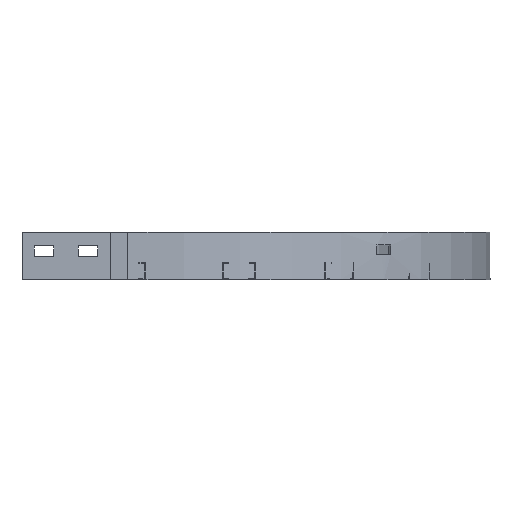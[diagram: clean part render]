
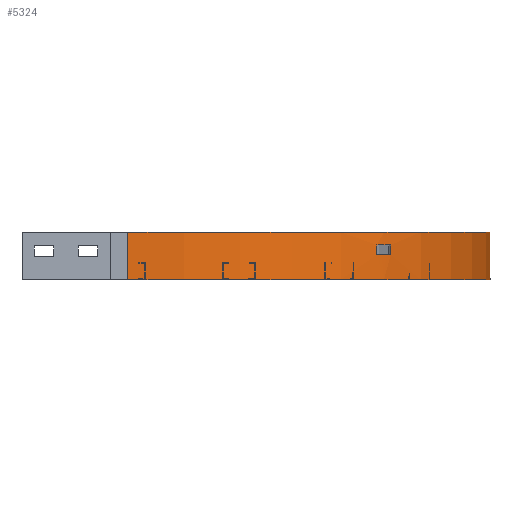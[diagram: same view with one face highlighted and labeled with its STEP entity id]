
A CAD part, front view. The second image highlights one B-rep face of the part: STEP entity #5324.
In plain terms, the highlighted cylindrical face has radius 411 mm (diameter 822 mm), a partial arc.
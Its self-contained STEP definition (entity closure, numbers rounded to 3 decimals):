
#143=FACE_BOUND('',#724,.T.);
#211=CYLINDRICAL_SURFACE('',#5639,411.);
#244=CIRCLE('',#5631,411.);
#249=CIRCLE('',#5638,411.);
#250=CIRCLE('',#5640,411.);
#251=CIRCLE('',#5641,411.);
#434=FACE_OUTER_BOUND('',#723,.T.);
#723=EDGE_LOOP('',(#3620,#3621,#3622,#3623));
#724=EDGE_LOOP('',(#3624,#3625,#3626,#3627));
#1079=LINE('',#7537,#1675);
#1085=LINE('',#7561,#1681);
#1086=LINE('',#7566,#1682);
#1087=LINE('',#7569,#1683);
#1675=VECTOR('',#6094,304.8);
#1681=VECTOR('',#6120,304.8);
#1682=VECTOR('',#6123,304.8);
#1683=VECTOR('',#6126,304.8);
#2268=VERTEX_POINT('',#7530);
#2271=VERTEX_POINT('',#7535);
#2272=VERTEX_POINT('',#7539);
#2279=VERTEX_POINT('',#7557);
#2280=VERTEX_POINT('',#7562);
#2281=VERTEX_POINT('',#7563);
#2282=VERTEX_POINT('',#7565);
#2283=VERTEX_POINT('',#7567);
#2799=EDGE_CURVE('',#2271,#2268,#1079,.T.);
#2800=EDGE_CURVE('',#2268,#2272,#244,.T.);
#2810=EDGE_CURVE('',#2279,#2271,#249,.T.);
#2811=EDGE_CURVE('',#2272,#2279,#1085,.T.);
#2812=EDGE_CURVE('',#2280,#2281,#250,.T.);
#2813=EDGE_CURVE('',#2281,#2282,#1086,.T.);
#2814=EDGE_CURVE('',#2282,#2283,#251,.T.);
#2815=EDGE_CURVE('',#2283,#2280,#1087,.T.);
#3620=ORIENTED_EDGE('',*,*,#2799,.F.);
#3621=ORIENTED_EDGE('',*,*,#2810,.F.);
#3622=ORIENTED_EDGE('',*,*,#2811,.F.);
#3623=ORIENTED_EDGE('',*,*,#2800,.F.);
#3624=ORIENTED_EDGE('',*,*,#2812,.T.);
#3625=ORIENTED_EDGE('',*,*,#2813,.T.);
#3626=ORIENTED_EDGE('',*,*,#2814,.T.);
#3627=ORIENTED_EDGE('',*,*,#2815,.T.);
#5324=ADVANCED_FACE('',(#434,#143),#211,.T.);
#5631=AXIS2_PLACEMENT_3D('',#7540,#6097,#6098);
#5638=AXIS2_PLACEMENT_3D('',#7559,#6116,#6117);
#5639=AXIS2_PLACEMENT_3D('',#7560,#6118,#6119);
#5640=AXIS2_PLACEMENT_3D('',#7564,#6121,#6122);
#5641=AXIS2_PLACEMENT_3D('',#7568,#6124,#6125);
#6094=DIRECTION('',(0.,0.,1.));
#6097=DIRECTION('center_axis',(0.,0.,1.));
#6098=DIRECTION('ref_axis',(0.,-1.,0.));
#6116=DIRECTION('center_axis',(0.,0.,-1.));
#6117=DIRECTION('ref_axis',(0.,-1.,0.));
#6118=DIRECTION('center_axis',(0.,0.,1.));
#6119=DIRECTION('ref_axis',(0.,-1.,0.));
#6120=DIRECTION('',(0.,0.,-1.));
#6121=DIRECTION('center_axis',(0.,0.,1.));
#6122=DIRECTION('ref_axis',(0.,-1.,0.));
#6123=DIRECTION('',(0.,0.,-1.));
#6124=DIRECTION('center_axis',(0.,0.,-1.));
#6125=DIRECTION('ref_axis',(0.,-1.,0.));
#6126=DIRECTION('',(0.,0.,1.));
#7530=CARTESIAN_POINT('',(-355.5,-55.5,27.));
#7535=CARTESIAN_POINT('',(-355.5,-55.5,-27.));
#7537=CARTESIAN_POINT('',(-355.5,-55.5,-27.));
#7539=CARTESIAN_POINT('',(55.5,355.5,27.));
#7540=CARTESIAN_POINT('Origin',(-355.5,355.5,27.));
#7557=CARTESIAN_POINT('',(55.5,355.5,-27.));
#7559=CARTESIAN_POINT('Origin',(-355.5,355.5,-27.));
#7560=CARTESIAN_POINT('Origin',(-355.5,355.5,0.));
#7561=CARTESIAN_POINT('',(55.5,355.5,27.));
#7562=CARTESIAN_POINT('',(-72.721,57.243,12.5));
#7563=CARTESIAN_POINT('',(-57.167,72.802,12.5));
#7564=CARTESIAN_POINT('Origin',(-355.5,355.5,12.5));
#7565=CARTESIAN_POINT('',(-57.167,72.802,1.5));
#7566=CARTESIAN_POINT('',(-57.167,72.802,12.5));
#7567=CARTESIAN_POINT('',(-72.721,57.243,1.5));
#7568=CARTESIAN_POINT('Origin',(-355.5,355.5,1.5));
#7569=CARTESIAN_POINT('',(-72.721,57.243,1.5));
